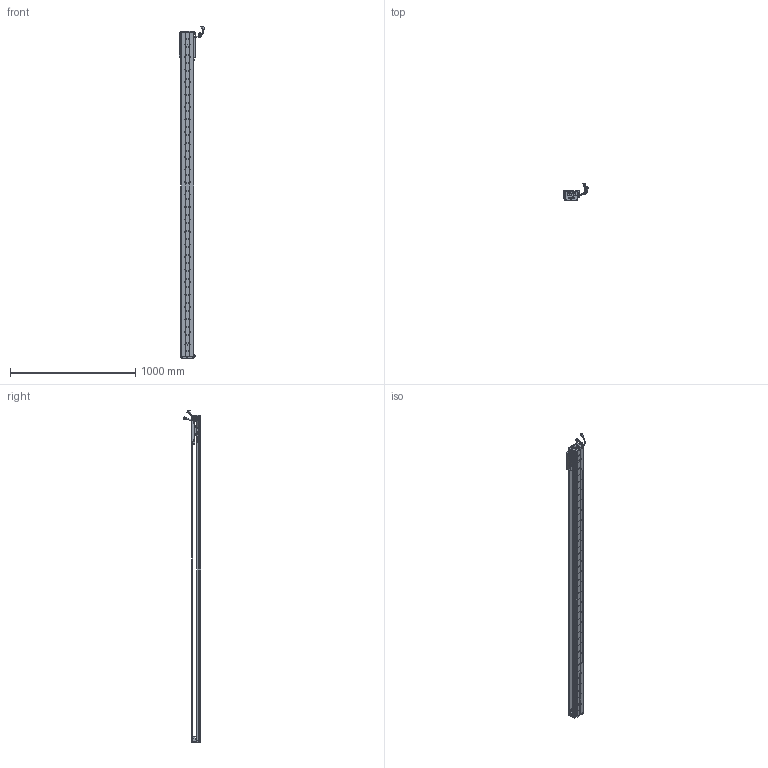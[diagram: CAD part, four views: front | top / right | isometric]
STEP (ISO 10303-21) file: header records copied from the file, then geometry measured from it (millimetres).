
FILE_DESCRIPTION (( 'STEP AP203' ), '1' );
FILE_NAME ('Z2-RY100D-1-L500-B-K.SLDASM_2350.step', '2021-05-17T02:37:44', ( '盈信电脑' ), ( '东莞市道滘镇水果街19号' ), 'SwSTEP 2.0', 'SolidWorks 2016', '' );
FILE_SCHEMA (( 'CONFIG_CONTROL_DESIGN' ));
Length unit declared in the file: millimetre
Products named in the file (36): Z2-RY100铝滑块（21款）; SCREW-M1.7-1; Z-RY100D詩湍奻揤裔; LABEL-Part-1; SCALE; 100-Z-臏賑輸盄裔(21遴); PBU_SHEET; HARNESS-Part-2; COVER-Part-1; HOLDER0; SCREW-M1.6-1; COVER; Z2-RY100D-500-倰第菁釱_2350; 覜茼ん672; SCREW-M1.6-3; Z2-RY100D-1-L500-B-K.SLDASM_2350; LABEL; SEAL; 140雄赽晤鎢ん堤盄; 榋妏寠巭燃_暯_M2_2; HARNESS-Part-1; SEAL-Part-1; SCALE-Part-2; 080黍杅芛假蚾釱21遴; Z-RY100D覜茼んえ; SHIELDPLATE; PSLH080_PSLF2; Z-RY100D詩湍狟揤裔; 140蚥薯蝶輸; Z2-RY100-L500詩湍90mm遵_2350; SCALE-Part-1; SCREW-M1.6-2; SCREW-M1.7; Z-100詩湍傷裔啣; SCREW-M1.6; HARNESS
Assembly tree (43 placements, depth 4):
  Z2-RY100D-1-L500-B-K.SLDASM_2350
    Z2-RY100D-500-倰第菁釱_2350
    Z2-RY100铝滑块（21款）
    PSLH080_PSLF2
      SCALE
        SCALE-Part-1
        SCALE-Part-2
      HARNESS
        HARNESS-Part-1
        HARNESS-Part-2
      LABEL
        LABEL-Part-1
      COVER
        COVER-Part-1
      SEAL
        SEAL-Part-1
      榋妏寠巭燃_暯_M2_2
      SHIELDPLATE
      SCREW-M1.7
      SCREW-M1.7-1
      PBU_SHEET
      SCREW-M1.6
      SCREW-M1.6-1
      SCREW-M1.6-2
      SCREW-M1.6-3
      HOLDER0
    080黍杅芛假蚾釱21遴
    Z-100詩湍傷裔啣  x2
    140蚥薯蝶輸  x2
    覜茼ん672  x3
    Z-RY100D覜茼んえ  x3
    100-Z-臏賑輸盄裔(21遴)
    140雄赽晤鎢ん堤盄
    Z2-RY100-L500詩湍90mm遵_2350
    Z-RY100D詩湍狟揤裔  x2
    Z-RY100D詩湍奻揤裔  x2
Bounding box: 205.79 x 136.11 x 2655.43 mm (x, y, z)
Volume: 4771201 mm3; surface area: 1893309.4 mm2
Topology: 38 solids, 38 shells, 2968 faces, 8103 edges, 5176 vertices
Faces by surface type: cylinder 1450, plane 1178, cone 218, torus 69, bspline 53
Entity records: 85843 total; most frequent: CARTESIAN_POINT 18012, DIRECTION 13815, ORIENTED_EDGE 13102, EDGE_CURVE 6551, AXIS2_PLACEMENT_3D 5187, VERTEX_POINT 4244, LINE 3441, VECTOR 3441
